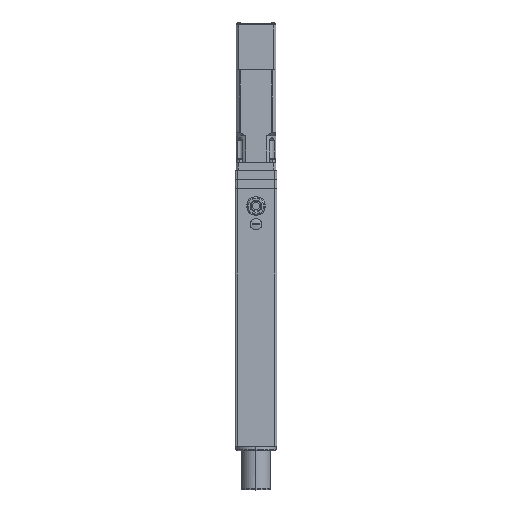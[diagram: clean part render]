
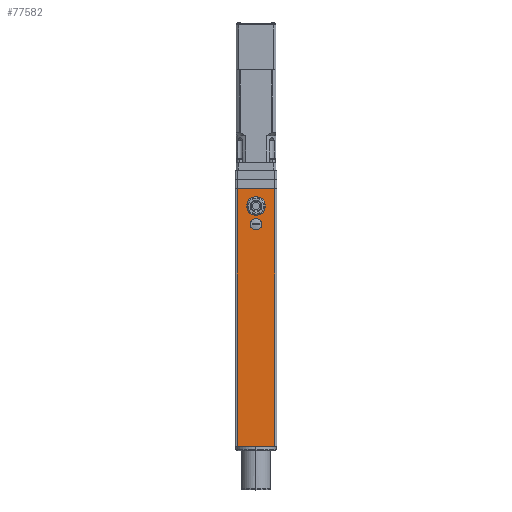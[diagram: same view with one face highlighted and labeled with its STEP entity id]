
A CAD part, top view. The second image highlights one B-rep face of the part: STEP entity #77582.
In plain terms, the highlighted planar face has unit normal (0, 0, 1).
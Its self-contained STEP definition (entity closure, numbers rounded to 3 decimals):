
#437 = VECTOR ( 'NONE', #19058, 1000. ) ;
#1912 = DIRECTION ( 'NONE',  ( -1., 0., 0. ) ) ;
#4627 = CARTESIAN_POINT ( 'NONE',  ( -5.25, 307.5, 29. ) ) ;
#5540 = VERTEX_POINT ( 'NONE', #75876 ) ;
#6083 = AXIS2_PLACEMENT_3D ( 'NONE', #28107, #78330, #18864 ) ;
#8772 = VECTOR ( 'NONE', #16702, 1000. ) ;
#9045 = FACE_BOUND ( 'NONE', #51554, .T. ) ;
#13297 = CARTESIAN_POINT ( 'NONE',  ( -9.25, 332.5, 29. ) ) ;
#16702 = DIRECTION ( 'NONE',  ( 0., 1., 0. ) ) ;
#17985 = LINE ( 'NONE', #76902, #437 ) ;
#18864 = DIRECTION ( 'NONE',  ( 1., 0., 0. ) ) ;
#19058 = DIRECTION ( 'NONE',  ( 1., 0., 0. ) ) ;
#19340 = CARTESIAN_POINT ( 'NONE',  ( 26., 356.5, 29. ) ) ;
#19806 = EDGE_LOOP ( 'NONE', ( #80373, #63145 ) ) ;
#20229 = VERTEX_POINT ( 'NONE', #76306 ) ;
#22087 = VECTOR ( 'NONE', #67280, 1000. ) ;
#24531 = CIRCLE ( 'NONE', #99664, 9.25 ) ;
#27024 = LINE ( 'NONE', #60327, #8772 ) ;
#28038 = VERTEX_POINT ( 'NONE', #19340 ) ;
#28107 = CARTESIAN_POINT ( 'NONE',  ( 0., 307.5, 29. ) ) ;
#32981 = CARTESIAN_POINT ( 'NONE',  ( -29., 356.5, 29. ) ) ;
#33830 = ORIENTED_EDGE ( 'NONE', *, *, #60880, .F. ) ;
#34606 = FACE_OUTER_BOUND ( 'NONE', #42780, .T. ) ;
#34903 = CARTESIAN_POINT ( 'NONE',  ( 0., 307.5, 29. ) ) ;
#36053 = AXIS2_PLACEMENT_3D ( 'NONE', #34903, #85154, #60573 ) ;
#37740 = AXIS2_PLACEMENT_3D ( 'NONE', #32981, #84875, #1912 ) ;
#39507 = EDGE_CURVE ( 'NONE', #5540, #89803, #70967, .T. ) ;
#42780 = EDGE_LOOP ( 'NONE', ( #78879, #80883, #33830, #79798 ) ) ;
#43256 = VERTEX_POINT ( 'NONE', #67580 ) ;
#44196 = CARTESIAN_POINT ( 'NONE',  ( 9.25, 332.5, 29. ) ) ;
#49905 = DIRECTION ( 'NONE',  ( 0., 0., 1. ) ) ;
#51078 = EDGE_CURVE ( 'NONE', #85831, #101952, #51172, .T. ) ;
#51172 = CIRCLE ( 'NONE', #93114, 9.25 ) ;
#51554 = EDGE_LOOP ( 'NONE', ( #99033, #85865 ) ) ;
#56922 = CARTESIAN_POINT ( 'NONE',  ( -26., 356.5, 29. ) ) ;
#58857 = EDGE_CURVE ( 'NONE', #43256, #28038, #27024, .T. ) ;
#58901 = CARTESIAN_POINT ( 'NONE',  ( 0., 332.5, 29. ) ) ;
#59070 = LINE ( 'NONE', #56922, #22087 ) ;
#59227 = PLANE ( 'NONE',  #37740 ) ;
#59761 = FACE_BOUND ( 'NONE', #19806, .T. ) ;
#60327 = CARTESIAN_POINT ( 'NONE',  ( 26., 356.5, 29. ) ) ;
#60573 = DIRECTION ( 'NONE',  ( 1., 0., 0. ) ) ;
#60880 = EDGE_CURVE ( 'NONE', #20229, #28038, #17985, .T. ) ;
#63145 = ORIENTED_EDGE ( 'NONE', *, *, #51078, .F. ) ;
#63336 = CARTESIAN_POINT ( 'NONE',  ( 26., 0., 29. ) ) ;
#65365 = EDGE_CURVE ( 'NONE', #89803, #5540, #91498, .T. ) ;
#67280 = DIRECTION ( 'NONE',  ( 0., -1., 0. ) ) ;
#67580 = CARTESIAN_POINT ( 'NONE',  ( 26., 0., 29. ) ) ;
#69378 = CARTESIAN_POINT ( 'NONE',  ( 0., 332.5, 29. ) ) ;
#70967 = CIRCLE ( 'NONE', #36053, 5.25 ) ;
#71468 = EDGE_CURVE ( 'NONE', #101952, #85831, #24531, .T. ) ;
#72688 = CARTESIAN_POINT ( 'NONE',  ( -26., 0., 29. ) ) ;
#75876 = CARTESIAN_POINT ( 'NONE',  ( 5.25, 307.5, 29. ) ) ;
#76306 = CARTESIAN_POINT ( 'NONE',  ( -26., 356.5, 29. ) ) ;
#76378 = VERTEX_POINT ( 'NONE', #72688 ) ;
#76786 = EDGE_CURVE ( 'NONE', #20229, #76378, #59070, .T. ) ;
#76902 = CARTESIAN_POINT ( 'NONE',  ( -29., 356.5, 29. ) ) ;
#77441 = DIRECTION ( 'NONE',  ( 0., 0., 1. ) ) ;
#77582 = ADVANCED_FACE ( 'NONE', ( #9045, #59761, #34606 ), #59227, .F. ) ;
#78330 = DIRECTION ( 'NONE',  ( 0., 0., 1. ) ) ;
#78879 = ORIENTED_EDGE ( 'NONE', *, *, #100226, .F. ) ;
#79798 = ORIENTED_EDGE ( 'NONE', *, *, #76786, .T. ) ;
#80373 = ORIENTED_EDGE ( 'NONE', *, *, #71468, .F. ) ;
#80883 = ORIENTED_EDGE ( 'NONE', *, *, #58857, .T. ) ;
#83238 = DIRECTION ( 'NONE',  ( 1., 0., 0. ) ) ;
#84551 = DIRECTION ( 'NONE',  ( 1., 0., 0. ) ) ;
#84875 = DIRECTION ( 'NONE',  ( 0., 0., -1. ) ) ;
#85154 = DIRECTION ( 'NONE',  ( 0., 0., 1. ) ) ;
#85831 = VERTEX_POINT ( 'NONE', #13297 ) ;
#85865 = ORIENTED_EDGE ( 'NONE', *, *, #65365, .F. ) ;
#88438 = LINE ( 'NONE', #63336, #93234 ) ;
#89803 = VERTEX_POINT ( 'NONE', #4627 ) ;
#91498 = CIRCLE ( 'NONE', #6083, 5.25 ) ;
#93114 = AXIS2_PLACEMENT_3D ( 'NONE', #69378, #49905, #83238 ) ;
#93234 = VECTOR ( 'NONE', #105874, 1000. ) ;
#99033 = ORIENTED_EDGE ( 'NONE', *, *, #39507, .F. ) ;
#99664 = AXIS2_PLACEMENT_3D ( 'NONE', #58901, #77441, #84551 ) ;
#100226 = EDGE_CURVE ( 'NONE', #43256, #76378, #88438, .T. ) ;
#101952 = VERTEX_POINT ( 'NONE', #44196 ) ;
#105874 = DIRECTION ( 'NONE',  ( -1., 0., 0. ) ) ;
